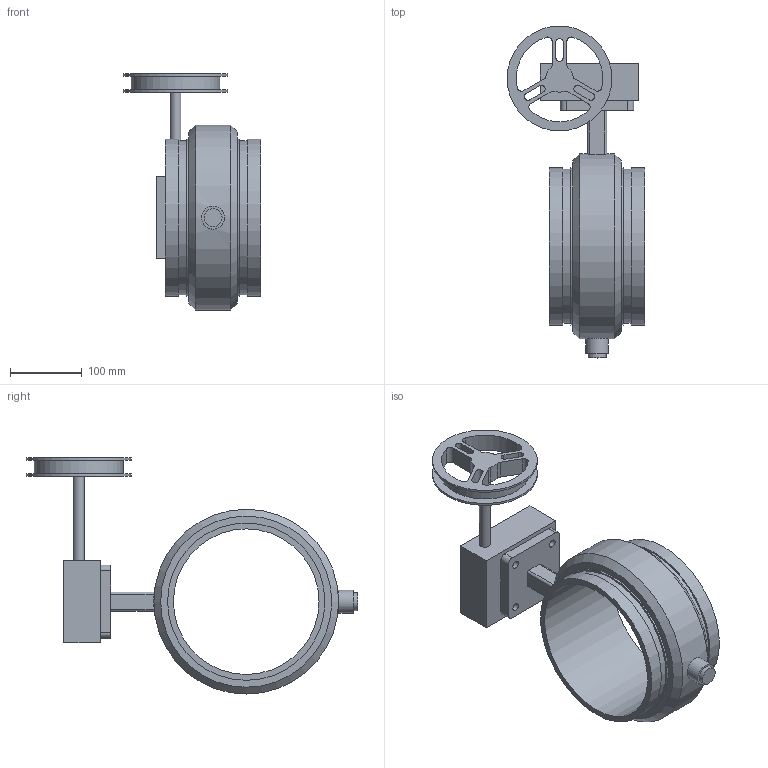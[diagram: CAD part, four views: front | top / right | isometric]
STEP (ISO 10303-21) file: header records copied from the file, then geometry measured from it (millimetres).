
FILE_DESCRIPTION(/* description */ ('VIC SS BUTTERFLY VALVE GO CW SERIES 250-S (OGS)'),/* implementation_level */ '2;1');
FILE_NAME(/* name */ 'C:\Files for Export\250-S\Victaulic_SS_Vlv Btfl GO CW_Series 250-S (OGS)\Victaulic_SS_Vlv Btfl GO CW_Series 250-S (OGS)_8 (200).stp',/* time_stamp */ '2024-10-14T13:12:47+02:00',/* author */ ('cps_temp'),/* organization */ ('Victaulic'),/* preprocessor_version */ 'ST-DEVELOPER v18.1',/* originating_system */ 'Autodesk Inventor 2020',/* authorisation */ '');
FILE_SCHEMA (('AUTOMOTIVE_DESIGN { 1 0 10303 214 3 1 1 }'));
Length unit declared in the file: inch
Products named in the file (1): 250-S4-08.0
Bounding box: 192.02 x 461.9 x 328.8 mm (x, y, z)
Volume: 2717560.9 mm3; surface area: 359791.3 mm2
Topology: 1 solids, 2 shells, 101 faces, 258 edges, 179 vertices
Faces by surface type: cylinder 52, plane 47, cone 2
Full cylindrical faces by diameter (mm): 10.922 x4, 15.24 x1, 24.892 x2, 31.75 x1, 55.118 x1, 123.825 x1, 146.05 x2, 202.717 x1, 214.401 x2, 219.075 x4, 257.302 x1
Entity records: 3427 total; most frequent: CARTESIAN_POINT 642, DIRECTION 581, ORIENTED_EDGE 516, EDGE_CURVE 258, AXIS2_PLACEMENT_3D 228, VERTEX_POINT 179, EDGE_LOOP 135, CIRCLE 126
